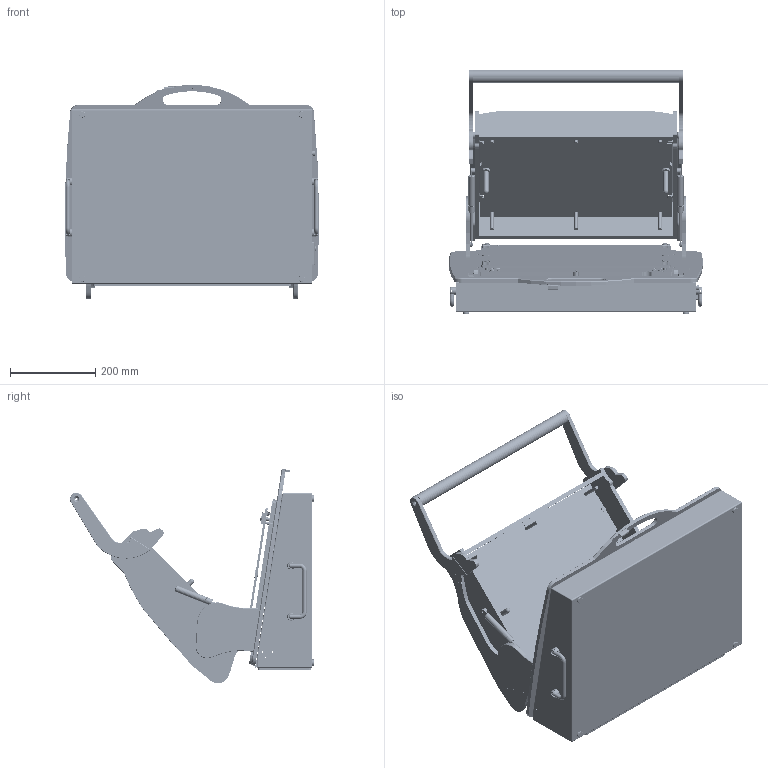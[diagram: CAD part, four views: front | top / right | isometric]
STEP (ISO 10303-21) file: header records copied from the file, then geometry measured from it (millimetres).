
FILE_DESCRIPTION (( 'STEP AP203' ), '1' );
FILE_NAME ('M13-03001-MMI-C-3D-open.STEP', '2018-01-11T09:44:44', ( 'Admin' ), ( '' ), 'SwSTEP 2.0', 'SolidWorks 2017', '' );
FILE_SCHEMA (( 'CONFIG_CONTROL_DESIGN' ));
Length unit declared in the file: millimetre
Products named in the file (96): CXX334001_eingefahren; CXXE90-01395; Kopie von LIFT-O-MAT-ｫ 192864_1^CXX303015; Kopie von 283166-01^CXX283166; CXXE90-01397; CXXE90-01346; CXX336001; CXXB04-00011_1-Einlegestellung; CXX430057; CXX681001; CXXE01-00117_t〉kis; CXXE90-01269; M13-03001-MMI-C-3D-open; CXX104064; CXXE90-01396; Kopie von LIFT-O-MAT-ｫ 192864_2^CXX303015; Kopie von 283166-02^CXX283166; CXXE90-01398; CXXE90-01717; Klappgriffteil 1^CXX330006; CXXE04-00031; CXXISO 10642 - M3 x 10_ISO 10642 - M3 x 10; CXX601011; CXXE90-00080; CXXE90-01270; CXXB01-00071_R…kwand 5mm; CXXE90-01313; CXX303015; Kopie von 283166-03^CXX283166; CXXE90-01304; CXXE90-01387; Klappgriff^CXX330006; CXXE90-01393; CXXISO 4762 M3 x 10_ISO 4762 M3 x 10 --- 10C; CXX419007; CXXE90-00071; CXXE90-01274; CXXE05-00123; CXXE90-01177; Kopie von LIFT-O-MAT-ｫ 192864_1^CXX443024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
Assembly tree (184 placements, depth 4):
  M13-03001-MMI-C-3D-open
    CXXB01-00071_R…kwand 5mm
      CXXE01-00117_t〉kis
      CXXE90-00080
      CXXE90-00071
      CXXE90-01229
      CXXE90-01231
      CXXE90-01614
      CXXB03-00086
        CXXE13-00017
        CXX499011
        CXX430057
        CXXISO 10642 - M3 x 10_ISO 10642 - M3 x 10
        CXXISO 4762 M3 x 10_ISO 4762 M3 x 10 --- 10C
        CXX552102
        CXXISO 4762 M4 x 6_ISO 4762 M4 x 6 --- 6C  x4
        din 6796-4_DIN 6796-4  x4
        CXX922066
      CXX336001  x4
      CXX330006  x2
        Klappgriffteil 1^CXX330006
        Klappgriff^CXX330006
      CXX331001  x3
        Kopie von 331001-01^CXX331001
        Kopie von 331001-02^CXX331001
        Kopie von 331001-03^CXX331001
      CXX283166
        Kopie von 283166-01^CXX283166
        Kopie von 283166-02^CXX283166
        Kopie von 283166-03^CXX283166
        Kopie von 283166-04^CXX283166
      CXX104070
      CXX334001_eingefahren
        Kopie von 334001-01^CXX334001
        Kopie von 334001-03^CXX334001  x2
      CXX104064
    CXXB04-00011_1-Einlegestellung
      CXXE05-00123
      CXXE02-00073
      CXXE03-00039
      CXXE90-01409
      CXXE90-01399
      CXXE90-01400
      CXXE90-01269  x2
      CXXE90-01270  x2
      CXXE90-01274  x4
      CXXE90-00045
      CXXE90-00251
      CXX453015  x4
      CXX426005  x4
      CXX412007
      CXX681001  x5
      CXX601011  x5
      CXX419007
      CXX440031  x8
      CXX445036  x2
      CXXDIN 921 - M4 x 10_DIN 921 - M4 x 10  x4
      DIN 923 - M4 x 20_DIN 923 - M4 x 20  x4
      ISO 7380 FL M3 x 6_3x6
    CXXB02-00067_1-Einlegestellung
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Bounding box: 597.42 x 573.21 x 504.41 mm (x, y, z)
Volume: 9442779.1 mm3; surface area: 3320477.2 mm2
Topology: 184 solids, 184 shells, 6531 faces, 16208 edges, 10255 vertices
Faces by surface type: cylinder 2750, plane 2525, cone 772, torus 400, bspline 70, sphere 14
Entity records: 171849 total; most frequent: CARTESIAN_POINT 39598, DIRECTION 26068, ORIENTED_EDGE 24362, EDGE_CURVE 12181, AXIS2_PLACEMENT_3D 9697, VERTEX_POINT 7805, LINE 6674, VECTOR 6674
